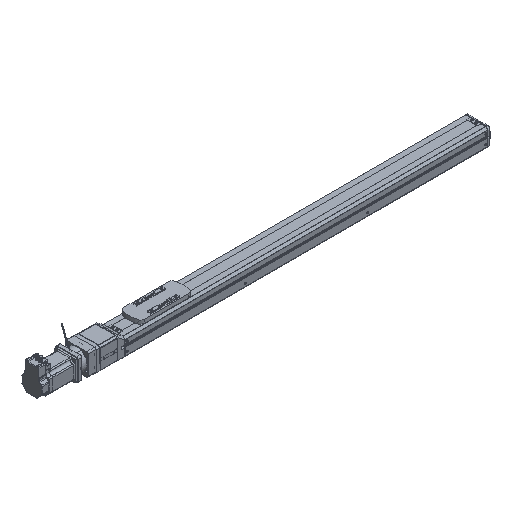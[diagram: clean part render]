
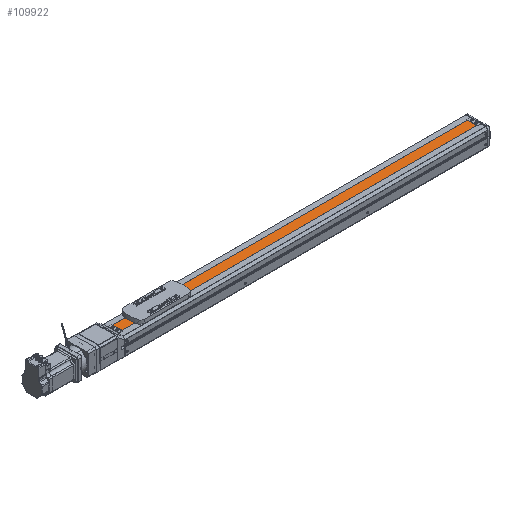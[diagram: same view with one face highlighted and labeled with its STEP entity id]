
A CAD part, isometric view. The second image highlights one B-rep face of the part: STEP entity #109922.
In plain terms, the highlighted planar face has unit normal (0, 0, 1) as drawn and (0, 1, 0) by its records, which use the part's own axes.
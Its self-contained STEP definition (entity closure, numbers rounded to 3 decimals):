
#109922 = ADVANCED_FACE('',(#109923),#109937,.T.);
#109923 = FACE_BOUND('',#109924,.T.);
#109924 = EDGE_LOOP('',(#109925,#109960,#109988,#110016));
#109925 = ORIENTED_EDGE('',*,*,#109926,.F.);
#109926 = EDGE_CURVE('',#109927,#109929,#109931,.T.);
#109927 = VERTEX_POINT('',#109928);
#109928 = CARTESIAN_POINT('',(-980.5,18.,-13.));
#109929 = VERTEX_POINT('',#109930);
#109930 = CARTESIAN_POINT('',(-21.5,18.,-13.));
#109931 = SURFACE_CURVE('',#109932,(#109936,#109948),.PCURVE_S1.);
#109932 = LINE('',#109933,#109934);
#109933 = CARTESIAN_POINT('',(-980.5,18.,-13.));
#109934 = VECTOR('',#109935,1.);
#109935 = DIRECTION('',(1.,0.,0.));
#109936 = PCURVE('',#109937,#109942);
#109937 = PLANE('',#109938);
#109938 = AXIS2_PLACEMENT_3D('',#109939,#109940,#109941);
#109939 = CARTESIAN_POINT('',(-990.5,18.,-26.583));
#109940 = DIRECTION('',(0.,1.,0.));
#109941 = DIRECTION('',(0.,-0.,1.));
#109942 = DEFINITIONAL_REPRESENTATION('',(#109943),#109947);
#109943 = LINE('',#109944,#109945);
#109944 = CARTESIAN_POINT('',(13.583,10.));
#109945 = VECTOR('',#109946,1.);
#109946 = DIRECTION('',(0.,1.));
#109947 = ( GEOMETRIC_REPRESENTATION_CONTEXT(2) 
PARAMETRIC_REPRESENTATION_CONTEXT() REPRESENTATION_CONTEXT('2D SPACE',''
  ) );
#109948 = PCURVE('',#109949,#109954);
#109949 = PLANE('',#109950);
#109950 = AXIS2_PLACEMENT_3D('',#109951,#109952,#109953);
#109951 = CARTESIAN_POINT('',(-980.5,18.,-13.));
#109952 = DIRECTION('',(0.,0.,1.));
#109953 = DIRECTION('',(1.,0.,-0.));
#109954 = DEFINITIONAL_REPRESENTATION('',(#109955),#109959);
#109955 = LINE('',#109956,#109957);
#109956 = CARTESIAN_POINT('',(0.,0.));
#109957 = VECTOR('',#109958,1.);
#109958 = DIRECTION('',(1.,0.));
#109959 = ( GEOMETRIC_REPRESENTATION_CONTEXT(2) 
PARAMETRIC_REPRESENTATION_CONTEXT() REPRESENTATION_CONTEXT('2D SPACE',''
  ) );
#109960 = ORIENTED_EDGE('',*,*,#109961,.T.);
#109961 = EDGE_CURVE('',#109927,#109962,#109964,.T.);
#109962 = VERTEX_POINT('',#109963);
#109963 = CARTESIAN_POINT('',(-980.5,18.,13.));
#109964 = SURFACE_CURVE('',#109965,(#109969,#109976),.PCURVE_S1.);
#109965 = LINE('',#109966,#109967);
#109966 = CARTESIAN_POINT('',(-980.5,18.,-26.583));
#109967 = VECTOR('',#109968,1.);
#109968 = DIRECTION('',(0.,0.,1.));
#109969 = PCURVE('',#109937,#109970);
#109970 = DEFINITIONAL_REPRESENTATION('',(#109971),#109975);
#109971 = LINE('',#109972,#109973);
#109972 = CARTESIAN_POINT('',(0.,10.));
#109973 = VECTOR('',#109974,1.);
#109974 = DIRECTION('',(1.,0.));
#109975 = ( GEOMETRIC_REPRESENTATION_CONTEXT(2) 
PARAMETRIC_REPRESENTATION_CONTEXT() REPRESENTATION_CONTEXT('2D SPACE',''
  ) );
#109976 = PCURVE('',#109977,#109982);
#109977 = PLANE('',#109978);
#109978 = AXIS2_PLACEMENT_3D('',#109979,#109980,#109981);
#109979 = CARTESIAN_POINT('',(-980.5,0.,0.));
#109980 = DIRECTION('',(1.,0.,0.));
#109981 = DIRECTION('',(0.,0.,-1.));
#109982 = DEFINITIONAL_REPRESENTATION('',(#109983),#109987);
#109983 = LINE('',#109984,#109985);
#109984 = CARTESIAN_POINT('',(26.583,18.));
#109985 = VECTOR('',#109986,1.);
#109986 = DIRECTION('',(-1.,0.));
#109987 = ( GEOMETRIC_REPRESENTATION_CONTEXT(2) 
PARAMETRIC_REPRESENTATION_CONTEXT() REPRESENTATION_CONTEXT('2D SPACE',''
  ) );
#109988 = ORIENTED_EDGE('',*,*,#109989,.T.);
#109989 = EDGE_CURVE('',#109962,#109990,#109992,.T.);
#109990 = VERTEX_POINT('',#109991);
#109991 = CARTESIAN_POINT('',(-21.5,18.,13.));
#109992 = SURFACE_CURVE('',#109993,(#109997,#110004),.PCURVE_S1.);
#109993 = LINE('',#109994,#109995);
#109994 = CARTESIAN_POINT('',(-980.5,18.,13.));
#109995 = VECTOR('',#109996,1.);
#109996 = DIRECTION('',(1.,0.,0.));
#109997 = PCURVE('',#109937,#109998);
#109998 = DEFINITIONAL_REPRESENTATION('',(#109999),#110003);
#109999 = LINE('',#110000,#110001);
#110000 = CARTESIAN_POINT('',(39.583,10.));
#110001 = VECTOR('',#110002,1.);
#110002 = DIRECTION('',(0.,1.));
#110003 = ( GEOMETRIC_REPRESENTATION_CONTEXT(2) 
PARAMETRIC_REPRESENTATION_CONTEXT() REPRESENTATION_CONTEXT('2D SPACE',''
  ) );
#110004 = PCURVE('',#110005,#110010);
#110005 = PLANE('',#110006);
#110006 = AXIS2_PLACEMENT_3D('',#110007,#110008,#110009);
#110007 = CARTESIAN_POINT('',(-980.5,15.,13.));
#110008 = DIRECTION('',(0.,0.,-1.));
#110009 = DIRECTION('',(-1.,0.,0.));
#110010 = DEFINITIONAL_REPRESENTATION('',(#110011),#110015);
#110011 = LINE('',#110012,#110013);
#110012 = CARTESIAN_POINT('',(0.,3.));
#110013 = VECTOR('',#110014,1.);
#110014 = DIRECTION('',(-1.,0.));
#110015 = ( GEOMETRIC_REPRESENTATION_CONTEXT(2) 
PARAMETRIC_REPRESENTATION_CONTEXT() REPRESENTATION_CONTEXT('2D SPACE',''
  ) );
#110016 = ORIENTED_EDGE('',*,*,#110017,.T.);
#110017 = EDGE_CURVE('',#109990,#109929,#110018,.T.);
#110018 = SURFACE_CURVE('',#110019,(#110023,#110030),.PCURVE_S1.);
#110019 = LINE('',#110020,#110021);
#110020 = CARTESIAN_POINT('',(-21.5,18.,-26.583));
#110021 = VECTOR('',#110022,1.);
#110022 = DIRECTION('',(0.,0.,-1.));
#110023 = PCURVE('',#109937,#110024);
#110024 = DEFINITIONAL_REPRESENTATION('',(#110025),#110029);
#110025 = LINE('',#110026,#110027);
#110026 = CARTESIAN_POINT('',(0.,969.));
#110027 = VECTOR('',#110028,1.);
#110028 = DIRECTION('',(-1.,0.));
#110029 = ( GEOMETRIC_REPRESENTATION_CONTEXT(2) 
PARAMETRIC_REPRESENTATION_CONTEXT() REPRESENTATION_CONTEXT('2D SPACE',''
  ) );
#110030 = PCURVE('',#110031,#110036);
#110031 = PLANE('',#110032);
#110032 = AXIS2_PLACEMENT_3D('',#110033,#110034,#110035);
#110033 = CARTESIAN_POINT('',(-21.5,0.,0.));
#110034 = DIRECTION('',(1.,0.,0.));
#110035 = DIRECTION('',(0.,0.,-1.));
#110036 = DEFINITIONAL_REPRESENTATION('',(#110037),#110041);
#110037 = LINE('',#110038,#110039);
#110038 = CARTESIAN_POINT('',(26.583,18.));
#110039 = VECTOR('',#110040,1.);
#110040 = DIRECTION('',(1.,0.));
#110041 = ( GEOMETRIC_REPRESENTATION_CONTEXT(2) 
PARAMETRIC_REPRESENTATION_CONTEXT() REPRESENTATION_CONTEXT('2D SPACE',''
  ) );
